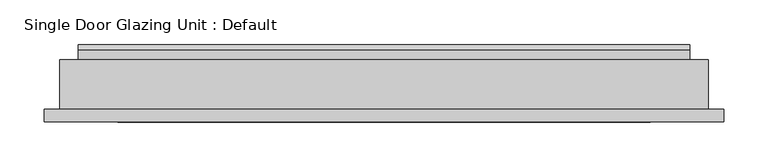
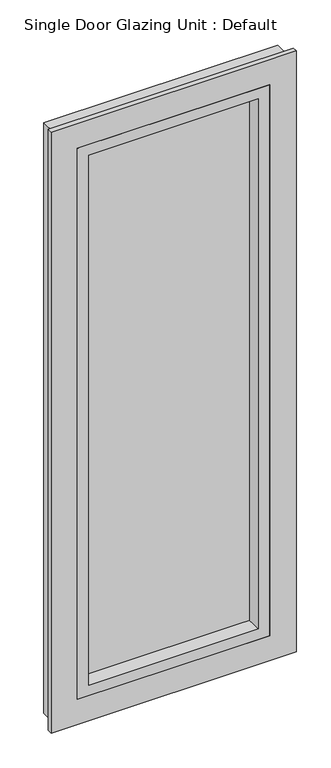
"""IFC4 building model written with IfcOpenShell, lengths in millimetres: proxy geometry, Single Door Glazing Unit : Default."""

from ifc_helpers import new_model, si_unit, frame, origin, place, context, project, spatial, polyline, outline, extrude, faceted_brep, source, transform, mapped, element, save


def single_door_glazing_unit_default_bb58f146(model_context):
    return source(origin(), model_context, "Body", "SolidModel", [
        extrude(outline(polyline([(80.9625, 55.5625), (87.3125, 44.5639774), (84.1375, 44.5639774), (80.9625, 50.0632387), (80.9625, 41.275), (69.85, 41.275), (69.85, 61.9125), (80.9625, 61.9125), (80.9625, 55.5625)])), frame((-344.4875, 0.0, 0.0), z_axis=(1.0, 0.0, 0.0), x_axis=(0.0, 1.0, 0.0)), (0.0, 0.0, 1.0), 688.975),
        extrude(outline(polyline([(-290.5125, 64.690625), (-290.5125, 69.85), (290.5125, 69.85), (290.5125, 64.690625), (-290.5125, 64.690625)])), frame((0.0, 0.0, 115.8875), z_axis=(0.0, 0.0, 1.0), x_axis=(1.0, 0.0, 0.0)), (0.0, 0.0, 1.0), 1800.225),
        extrude(outline(polyline([(-290.5125, 41.275), (-290.5125, 46.434375), (290.5125, 46.434375), (290.5125, 41.275), (-290.5125, 41.275)])), frame((0.0, 0.0, 115.8875), z_axis=(0.0, 0.0, 1.0), x_axis=(1.0, 0.0, 0.0)), (0.0, 0.0, 1.0), 1800.225),
        faceted_brep([(-300.0375, 1.5875, 1925.6375), (-300.0375, 0.0, 1925.6375), (300.0375, 0.0, 1925.6375), (300.0375, 1.5875, 1925.6375), (-290.5125, 20.6375, 1916.1125), (-290.5125, 1.5875, 1916.1125), (290.5125, 1.5875, 1916.1125), (290.5125, 20.6375, 1916.1125), (-266.7, 41.275, 1892.3), (266.7, 41.275, 1892.3), (-265.1125, 0.0, 1890.7125), (-260.35, 41.275, 1885.95), (260.35, 41.275, 1885.95), (265.1125, 0.0, 1890.7125), (300.0375, 0.0, 106.3625), (300.0375, 1.5875, 106.3625), (290.5125, 1.5875, 115.8875), (290.5125, 20.6375, 115.8875), (266.7, 41.275, 139.7), (260.35, 41.275, 146.05), (265.1125, 0.0, 141.2875), (-300.0375, 0.0, 106.3625), (-300.0375, 1.5875, 106.3625), (-290.5125, 1.5875, 115.8875), (-290.5125, 20.6375, 115.8875), (-266.7, 41.275, 139.7), (-260.35, 41.275, 146.05), (-265.1125, 0.0, 141.2875)], [[[0, 1, 2, 3]], [[4, 5, 6, 7]], [[8, 4, 7, 9]], [[10, 11, 12, 13]], [[3, 2, 14, 15]], [[7, 6, 16, 17]], [[9, 7, 17, 18]], [[13, 12, 19, 20]], [[15, 14, 21, 22]], [[17, 16, 23, 24]], [[18, 17, 24, 25]], [[20, 19, 26, 27]], [[1, 21, 14, 2], [13, 20, 27, 10]], [[22, 21, 1, 0]], [[3, 15, 22, 0], [5, 23, 16, 6]], [[24, 23, 5, 4]], [[25, 24, 4, 8]], [[9, 18, 25, 8], [11, 26, 19, 12]], [[27, 26, 11, 10]]]),
        faceted_brep([(-365.125, 69.85, 1990.725), (-365.125, 14.2875, 1990.725), (365.125, 14.2875, 1990.725), (365.125, 69.85, 1990.725), (-344.4875, 80.9625, 1970.0875), (-344.4875, 69.85, 1970.0875), (344.4875, 69.85, 1970.0875), (344.4875, 80.9625, 1970.0875), (-261.9375, 69.85, 1887.5375), (-261.9375, 80.9625, 1887.5375), (261.9375, 80.9625, 1887.5375), (261.9375, 69.85, 1887.5375), (-290.5125, 14.2875, 1916.1125), (-290.5125, 69.85, 1916.1125), (290.5125, 69.85, 1916.1125), (290.5125, 14.2875, 1916.1125), (-300.0375, 0.0, 1925.6375), (-300.0375, 14.2875, 1925.6375), (300.0375, 14.2875, 1925.6375), (300.0375, 0.0, 1925.6375), (-382.5875, 14.2875, 2008.1875), (-382.5875, 0.0, 2008.1875), (382.5875, 0.0, 2008.1875), (382.5875, 14.2875, 2008.1875), (365.125, 14.2875, 41.275), (365.125, 69.85, 41.275), (344.4875, 69.85, 61.9125), (344.4875, 80.9625, 61.9125), (261.9375, 80.9625, 144.4625), (261.9375, 69.85, 144.4625), (290.5125, 69.85, 115.8875), (290.5125, 14.2875, 115.8875), (300.0375, 14.2875, 106.3625), (300.0375, 0.0, 106.3625), (382.5875, 0.0, 23.8125), (382.5875, 14.2875, 23.8125), (-365.125, 14.2875, 41.275), (-365.125, 69.85, 41.275), (-344.4875, 69.85, 61.9125), (-344.4875, 80.9625, 61.9125), (-261.9375, 80.9625, 144.4625), (-261.9375, 69.85, 144.4625), (-290.5125, 69.85, 115.8875), (-290.5125, 14.2875, 115.8875), (-300.0375, 14.2875, 106.3625), (-300.0375, 0.0, 106.3625), (-382.5875, 0.0, 23.8125), (-382.5875, 14.2875, 23.8125)], [[[0, 1, 2, 3]], [[4, 5, 6, 7]], [[8, 9, 10, 11]], [[12, 13, 14, 15]], [[16, 17, 18, 19]], [[20, 21, 22, 23]], [[3, 2, 24, 25]], [[7, 6, 26, 27]], [[11, 10, 28, 29]], [[15, 14, 30, 31]], [[19, 18, 32, 33]], [[23, 22, 34, 35]], [[25, 24, 36, 37]], [[27, 26, 38, 39]], [[29, 28, 40, 41]], [[31, 30, 42, 43]], [[33, 32, 44, 45]], [[35, 34, 46, 47]], [[23, 35, 47, 20], [1, 36, 24, 2]], [[37, 36, 1, 0]], [[3, 25, 37, 0], [5, 38, 26, 6]], [[39, 38, 5, 4]], [[7, 27, 39, 4], [9, 40, 28, 10]], [[41, 40, 9, 8]], [[13, 42, 30, 14], [11, 29, 41, 8]], [[43, 42, 13, 12]], [[17, 44, 32, 18], [15, 31, 43, 12]], [[45, 44, 17, 16]], [[21, 46, 34, 22], [19, 33, 45, 16]], [[47, 46, 21, 20]]]),
    ])


if __name__ == "__main__":
    model = new_model("IFC4")
    model_context = context("Model", 3, world=origin())
    ifc_project = project(units=[si_unit("LENGTHUNIT", "METRE", prefix="MILLI")], contexts=[model_context])
    site = spatial("IfcSite", under=ifc_project)
    building = spatial("IfcBuilding", under=site)
    placement = place(None, origin())
    single_door_glazing_unit_default_shape = single_door_glazing_unit_default_bb58f146(model_context)
    element("IfcBuildingElementProxy", 1, Name="Single Door Glazing Unit : Default", ObjectType="Single Door Glazing Unit : Default", at=placement, inside=building, context=model_context, shape_type="MappedRepresentation", body=[
        mapped(single_door_glazing_unit_default_shape, transform((0.0, 0.0, 0.0), x_axis=(1.0, 0.0, 0.0), y_axis=(0.0, 1.0, 0.0), z_axis=(0.0, 0.0, 1.0))),
    ])
    save(model, "model.ifc")
